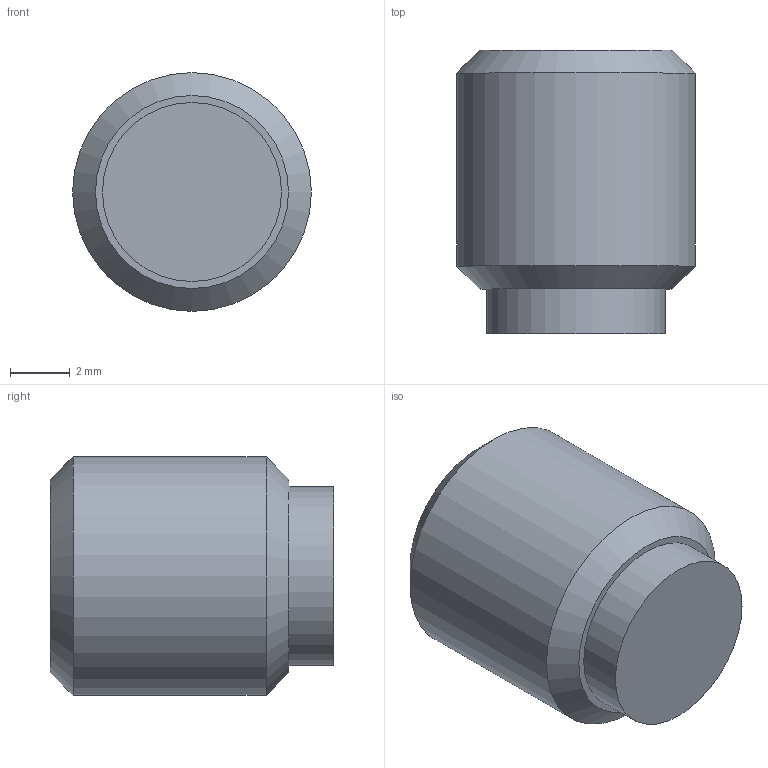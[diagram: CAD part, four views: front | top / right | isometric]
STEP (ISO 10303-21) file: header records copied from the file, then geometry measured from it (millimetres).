
FILE_DESCRIPTION( ( 'STEP AP203' ), '1' );
FILE_NAME( 'C:/Temp/Ganter_Step_05_03_2020/data/3_2/gn913_3/Grub screw GN 913.3-M8-8-MS.stp', '2020-03-13T05:35:49', ( 'License CC BY-ND 4.0' ), ( 'CADENAS' ), ' ', 'PARTsolutions', ' ' );
FILE_SCHEMA( ( 'CONFIG_CONTROL_DESIGN' ) );
Length unit declared in the file: millimetre
Products named in the file (1): _Grub screw GN 913.3-M8-8-MS
Bounding box: 8 x 9.5 x 8 mm (x, y, z)
Volume: 361.4 mm3; surface area: 375 mm2
Topology: 1 solids, 1 shells, 14 faces, 28 edges, 18 vertices
Faces by surface type: plane 10, cylinder 2, cone 2
Full cylindrical faces by diameter (mm): 6 x1, 8 x1
Entity records: 386 total; most frequent: DIRECTION 60, CARTESIAN_POINT 57, ORIENTED_EDGE 48, EDGE_CURVE 24, AXIS2_PLACEMENT_3D 21, EDGE_LOOP 20, VERTEX_POINT 18, LINE 18
